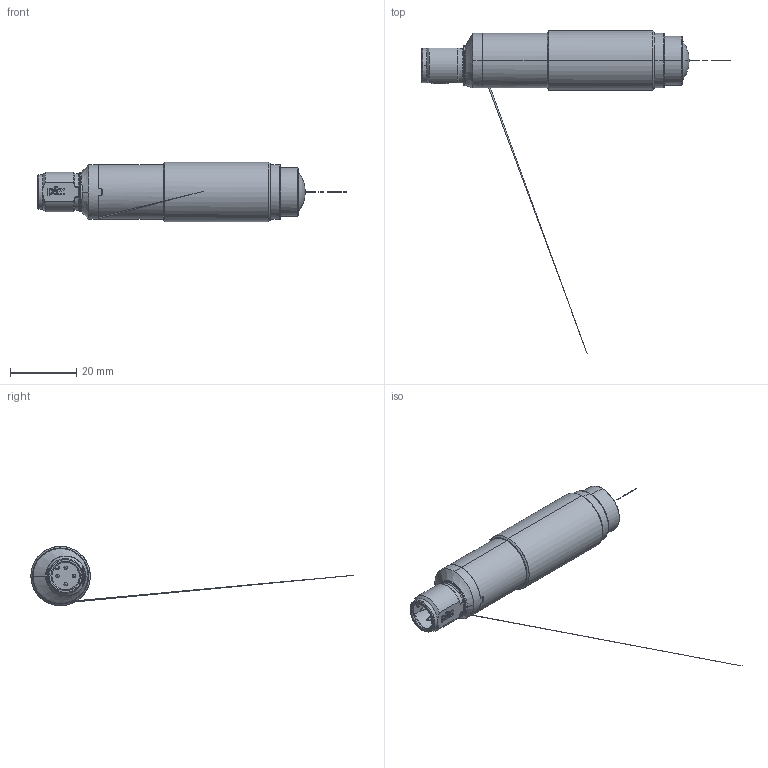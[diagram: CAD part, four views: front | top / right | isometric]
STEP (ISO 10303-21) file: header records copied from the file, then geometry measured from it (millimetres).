
FILE_DESCRIPTION((''),'2;1');
FILE_NAME('2008676','2011-03-28T',('rink'),(''),'PRO/ENGINEER BY PARAMETRIC TECHNOLOGY CORPORATION, 2009380','PRO/ENGINEER BY PARAMETRIC TECHNOLOGY CORPORATION, 2009380','');
FILE_SCHEMA(('AUTOMOTIVE_DESIGN_CC2 { 1 2 10303 214 -1 1 5 2 }'));
Length unit declared in the file: millimetre
Products named in the file (1): 2008676
Bounding box: 93.4 x 97.59 x 18 mm (x, y, z)
Surface area: 4551.6 mm2
Topology: 7 solids, 34 shells, 165 faces, 458 edges, 320 vertices
Faces by surface type: plane 69, cylinder 48, cone 20, torus 12, bspline 10, extrusion 4, sphere 2
Entity records: 7656 total; most frequent: CARTESIAN_POINT 1889, DIRECTION 839, ORIENTED_EDGE 753, PRESENTATION_STYLE_ASSIGNMENT 494, STYLED_ITEM 489, CURVE_STYLE 455, EDGE_CURVE 450, AXIS2_PLACEMENT_3D 326
